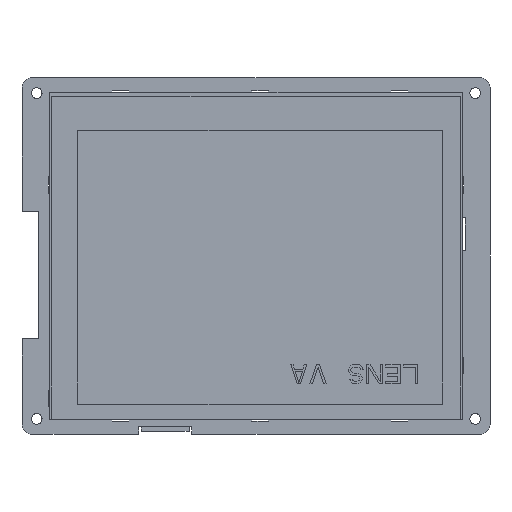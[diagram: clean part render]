
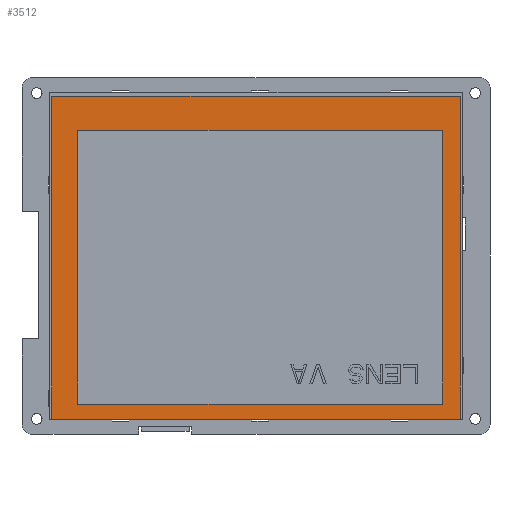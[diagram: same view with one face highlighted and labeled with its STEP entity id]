
A CAD part, front view. The second image highlights one B-rep face of the part: STEP entity #3512.
In plain terms, the highlighted planar face has unit normal (0, -1, 0) as drawn and (0, 1, 0) by its records, which use the part's own axes.
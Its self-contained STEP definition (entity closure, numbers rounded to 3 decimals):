
#1723=DIRECTION('',(0.,0.,1.));
#1724=VECTOR('',#1723,99.9);
#1725=CARTESIAN_POINT('',(-63.2,1.63,-49.95));
#1726=LINE('',#1725,#1724);
#1727=DIRECTION('',(-1.,0.,0.));
#1728=VECTOR('',#1727,126.4);
#1729=CARTESIAN_POINT('',(63.2,1.63,-49.95));
#1730=LINE('',#1729,#1728);
#1731=DIRECTION('',(0.,0.,-1.));
#1732=VECTOR('',#1731,99.9);
#1733=CARTESIAN_POINT('',(63.2,1.63,49.95));
#1734=LINE('',#1733,#1732);
#1735=DIRECTION('',(1.,0.,0.));
#1736=VECTOR('',#1735,126.4);
#1737=CARTESIAN_POINT('',(-63.2,1.63,49.95));
#1738=LINE('',#1737,#1736);
#1739=DIRECTION('',(0.,0.,1.));
#1740=VECTOR('',#1739,84.7);
#1741=CARTESIAN_POINT('',(-55.2,1.63,-39.4));
#1742=LINE('',#1741,#1740);
#1743=DIRECTION('',(1.,0.,0.));
#1744=VECTOR('',#1743,112.9);
#1745=CARTESIAN_POINT('',(-55.2,1.63,45.3));
#1746=LINE('',#1745,#1744);
#1747=DIRECTION('',(0.,0.,-1.));
#1748=VECTOR('',#1747,84.7);
#1749=CARTESIAN_POINT('',(57.7,1.63,45.3));
#1750=LINE('',#1749,#1748);
#1751=DIRECTION('',(-1.,0.,0.));
#1752=VECTOR('',#1751,112.9);
#1753=CARTESIAN_POINT('',(57.7,1.63,-39.4));
#1754=LINE('',#1753,#1752);
#2995=CARTESIAN_POINT('',(-63.2,1.63,-49.95));
#2996=CARTESIAN_POINT('',(-63.2,1.63,49.95));
#2997=VERTEX_POINT('',#2995);
#2998=VERTEX_POINT('',#2996);
#2999=CARTESIAN_POINT('',(63.2,1.63,49.95));
#3000=VERTEX_POINT('',#2999);
#3001=CARTESIAN_POINT('',(63.2,1.63,-49.95));
#3002=VERTEX_POINT('',#3001);
#3011=CARTESIAN_POINT('',(-55.2,1.63,-39.4));
#3012=CARTESIAN_POINT('',(-55.2,1.63,45.3));
#3013=VERTEX_POINT('',#3011);
#3014=VERTEX_POINT('',#3012);
#3015=CARTESIAN_POINT('',(57.7,1.63,45.3));
#3016=VERTEX_POINT('',#3015);
#3017=CARTESIAN_POINT('',(57.7,1.63,-39.4));
#3018=VERTEX_POINT('',#3017);
#3491=CARTESIAN_POINT('',(0.,1.63,0.));
#3492=DIRECTION('',(0.,1.,0.));
#3493=DIRECTION('',(1.,0.,0.));
#3494=AXIS2_PLACEMENT_3D('',#3491,#3492,#3493);
#3495=PLANE('',#3494);
#3496=ORIENTED_EDGE('',*,*,#3443,.F.);
#3497=ORIENTED_EDGE('',*,*,#3458,.F.);
#3498=ORIENTED_EDGE('',*,*,#3472,.F.);
#3499=ORIENTED_EDGE('',*,*,#3485,.F.);
#3500=EDGE_LOOP('',(#3496,#3497,#3498,#3499));
#3501=FACE_OUTER_BOUND('',#3500,.F.);
#3503=ORIENTED_EDGE('',*,*,#3502,.T.);
#3505=ORIENTED_EDGE('',*,*,#3504,.T.);
#3507=ORIENTED_EDGE('',*,*,#3506,.T.);
#3509=ORIENTED_EDGE('',*,*,#3508,.T.);
#3510=EDGE_LOOP('',(#3503,#3505,#3507,#3509));
#3511=FACE_BOUND('',#3510,.F.);
#3443=EDGE_CURVE('',#2997,#2998,#1726,.T.);
#3458=EDGE_CURVE('',#3002,#2997,#1730,.T.);
#3472=EDGE_CURVE('',#3000,#3002,#1734,.T.);
#3485=EDGE_CURVE('',#2998,#3000,#1738,.T.);
#3502=EDGE_CURVE('',#3013,#3014,#1742,.T.);
#3504=EDGE_CURVE('',#3014,#3016,#1746,.T.);
#3506=EDGE_CURVE('',#3016,#3018,#1750,.T.);
#3508=EDGE_CURVE('',#3018,#3013,#1754,.T.);
#3512=ADVANCED_FACE('',(#3501,#3511),#3495,.T.);
